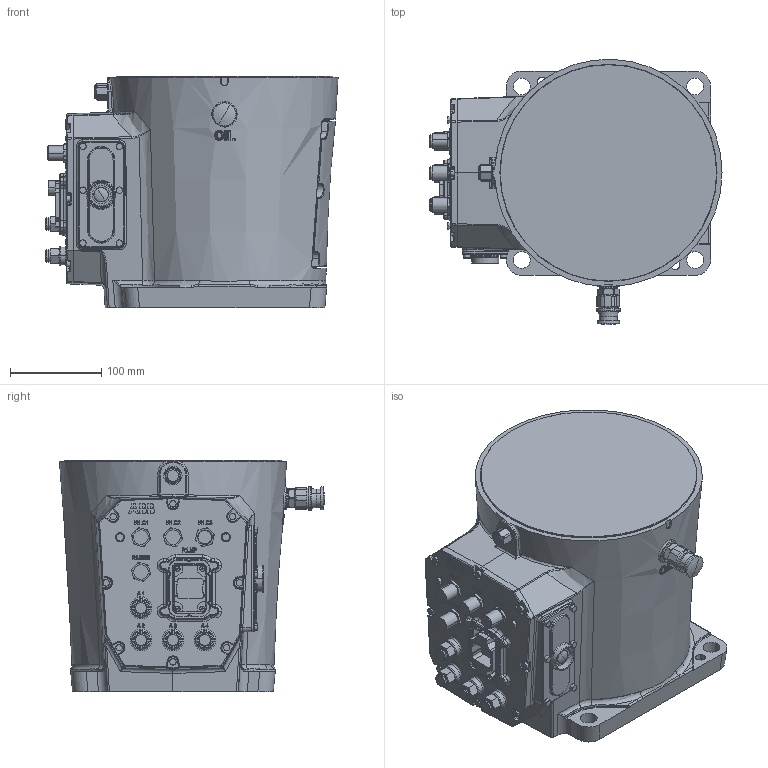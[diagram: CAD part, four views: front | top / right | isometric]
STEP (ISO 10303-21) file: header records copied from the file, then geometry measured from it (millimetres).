
FILE_DESCRIPTION (( 'STEP AP214' ), '1' );
FILE_NAME ('IRB1300 Type A_10Kg-1150-IP40IP67CR-STD_OC_00_link0.STEP', '2026-05-19T12:45:15', ( '' ), ( '' ), 'SwSTEP 2.0', 'SolidWorks 2024', '' );
FILE_SCHEMA (( 'AUTOMOTIVE_DESIGN' ));
Length unit declared in the file: millimetre
Products named in the file (1): IRB1300 Type A_10Kg-1150-IP40IP67CR-STD_OC_00_link0
Bounding box: 319.94 x 290.54 x 254 mm (x, y, z)
Volume: 13188147.5 mm3; surface area: 391845.7 mm2
Topology: 1 solids, 2 shells, 2183 faces, 5402 edges, 3341 vertices
Faces by surface type: plane 811, bspline 501, cylinder 471, torus 190, cone 166, sphere 44
Entity records: 89735 total; most frequent: CARTESIAN_POINT 42063, ORIENTED_EDGE 10750, DIRECTION 8743, EDGE_CURVE 5375, VERTEX_POINT 3336, AXIS2_PLACEMENT_3D 3199, VECTOR 2345, LINE 2345
